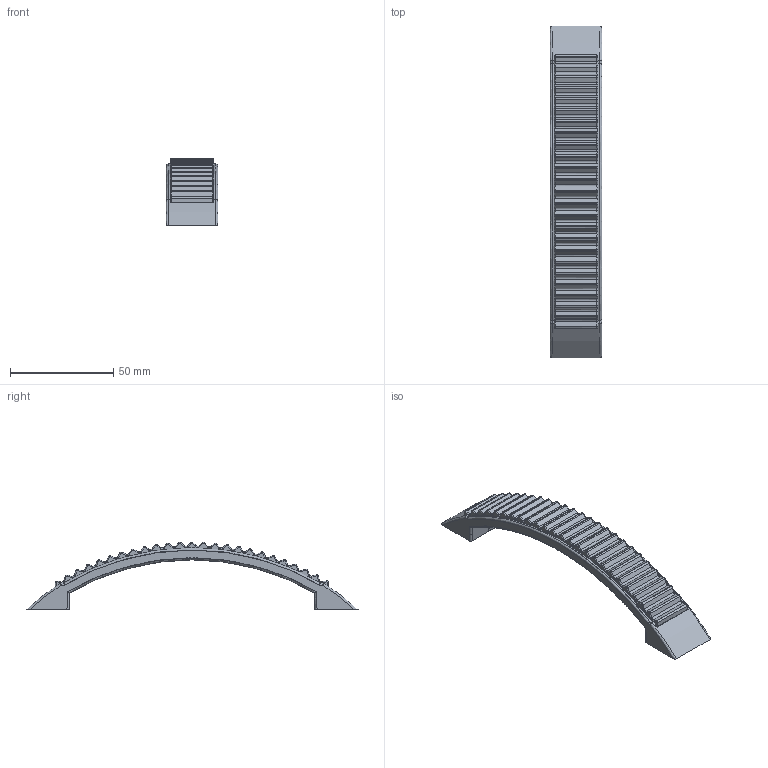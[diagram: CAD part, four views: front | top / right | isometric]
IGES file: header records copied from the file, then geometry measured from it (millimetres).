
Start section: C
Global section: file name: 090-160.igs; native system: By Siemens PLM Incorporated; preprocessor: XPlus GENERIC/IGES 16.0.42; author: Author; organization: Title; date: 20231210.153447; units: millimetre
Bounding box: 25 x 160.85 x 32.84 mm (x, y, z)
Surface area: 19913.7 mm2 (no closed solid volume)
Topology: 0 solids, 0 shells, 413 faces, 1986 edges, 1986 vertices
Faces by surface type: bspline 413
